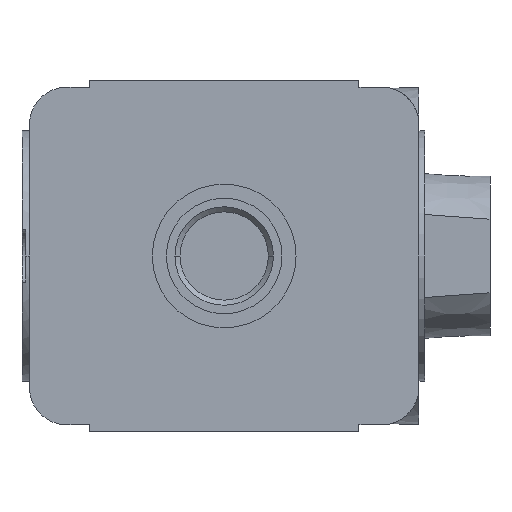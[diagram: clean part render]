
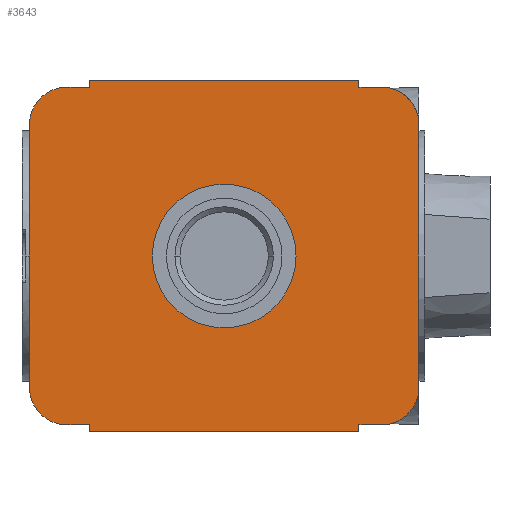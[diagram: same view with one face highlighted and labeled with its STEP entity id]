
A CAD part, left-side view. The second image highlights one B-rep face of the part: STEP entity #3643.
In plain terms, the highlighted planar face has unit normal (-1, 0, 0) as drawn and (0, 0, -1) by its records, which use the part's own axes.
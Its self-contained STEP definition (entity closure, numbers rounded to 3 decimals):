
#3170=CARTESIAN_POINT('',(0.,0.,-0.75));
#3171=DIRECTION('',(0.,0.,-1.));
#3172=DIRECTION('',(1.,0.,0.));
#3173=AXIS2_PLACEMENT_3D('',#3170,#3171,#3172);
#3175=CARTESIAN_POINT('',(0.,0.,-0.75));
#3176=DIRECTION('',(0.,0.,-1.));
#3177=DIRECTION('',(-1.,0.,0.));
#3178=AXIS2_PLACEMENT_3D('',#3175,#3176,#3177);
#3180=CARTESIAN_POINT('',(-17.56,21.,-0.75));
#3181=DIRECTION('',(0.,0.,1.));
#3182=DIRECTION('',(0.,1.,0.));
#3183=AXIS2_PLACEMENT_3D('',#3180,#3181,#3182);
#3185=DIRECTION('',(0.,-1.,0.));
#3186=VECTOR('',#3185,3.);
#3187=CARTESIAN_POINT('',(-22.56,21.,-0.75));
#3188=LINE('',#3187,#3186);
#3189=DIRECTION('',(-1.,0.,0.));
#3190=VECTOR('',#3189,0.94);
#3191=CARTESIAN_POINT('',(-22.56,18.,-0.75));
#3192=LINE('',#3191,#3190);
#3193=DIRECTION('',(0.,-1.,0.));
#3194=VECTOR('',#3193,36.);
#3195=CARTESIAN_POINT('',(-23.5,18.,-0.75));
#3196=LINE('',#3195,#3194);
#3197=DIRECTION('',(1.,0.,0.));
#3198=VECTOR('',#3197,0.94);
#3199=CARTESIAN_POINT('',(-23.5,-18.,-0.75));
#3200=LINE('',#3199,#3198);
#3201=DIRECTION('',(0.,-1.,0.));
#3202=VECTOR('',#3201,3.);
#3203=CARTESIAN_POINT('',(-22.56,-18.,-0.75));
#3204=LINE('',#3203,#3202);
#3205=CARTESIAN_POINT('',(-17.56,-21.,-0.75));
#3206=DIRECTION('',(0.,0.,1.));
#3207=DIRECTION('',(-1.,0.,0.));
#3208=AXIS2_PLACEMENT_3D('',#3205,#3206,#3207);
#3210=DIRECTION('',(1.,0.,0.));
#3211=VECTOR('',#3210,35.12);
#3212=CARTESIAN_POINT('',(-17.56,-26.,-0.75));
#3213=LINE('',#3212,#3211);
#3214=CARTESIAN_POINT('',(17.56,-21.,-0.75));
#3215=DIRECTION('',(0.,0.,1.));
#3216=DIRECTION('',(0.,-1.,0.));
#3217=AXIS2_PLACEMENT_3D('',#3214,#3215,#3216);
#3219=DIRECTION('',(0.,1.,0.));
#3220=VECTOR('',#3219,3.);
#3221=CARTESIAN_POINT('',(22.56,-21.,-0.75));
#3222=LINE('',#3221,#3220);
#3223=DIRECTION('',(1.,0.,0.));
#3224=VECTOR('',#3223,0.94);
#3225=CARTESIAN_POINT('',(22.56,-18.,-0.75));
#3226=LINE('',#3225,#3224);
#3227=DIRECTION('',(0.,1.,0.));
#3228=VECTOR('',#3227,36.);
#3229=CARTESIAN_POINT('',(23.5,-18.,-0.75));
#3230=LINE('',#3229,#3228);
#3231=DIRECTION('',(-1.,0.,0.));
#3232=VECTOR('',#3231,0.94);
#3233=CARTESIAN_POINT('',(23.5,18.,-0.75));
#3234=LINE('',#3233,#3232);
#3235=DIRECTION('',(0.,1.,0.));
#3236=VECTOR('',#3235,3.);
#3237=CARTESIAN_POINT('',(22.56,18.,-0.75));
#3238=LINE('',#3237,#3236);
#3239=CARTESIAN_POINT('',(17.56,21.,-0.75));
#3240=DIRECTION('',(0.,0.,1.));
#3241=DIRECTION('',(1.,0.,0.));
#3242=AXIS2_PLACEMENT_3D('',#3239,#3240,#3241);
#3244=DIRECTION('',(-1.,0.,0.));
#3245=VECTOR('',#3244,35.12);
#3246=CARTESIAN_POINT('',(17.56,26.,-0.75));
#3247=LINE('',#3246,#3245);
#3494=CARTESIAN_POINT('',(-17.56,26.,-0.75));
#3495=CARTESIAN_POINT('',(-22.56,21.,-0.75));
#3496=VERTEX_POINT('',#3494);
#3497=VERTEX_POINT('',#3495);
#3498=CARTESIAN_POINT('',(-22.56,18.,-0.75));
#3499=VERTEX_POINT('',#3498);
#3500=CARTESIAN_POINT('',(-23.5,18.,-0.75));
#3501=VERTEX_POINT('',#3500);
#3502=CARTESIAN_POINT('',(-23.5,-18.,-0.75));
#3503=VERTEX_POINT('',#3502);
#3504=CARTESIAN_POINT('',(-22.56,-18.,-0.75));
#3505=VERTEX_POINT('',#3504);
#3506=CARTESIAN_POINT('',(-22.56,-21.,-0.75));
#3507=VERTEX_POINT('',#3506);
#3508=CARTESIAN_POINT('',(-17.56,-26.,-0.75));
#3509=VERTEX_POINT('',#3508);
#3510=CARTESIAN_POINT('',(17.56,-26.,-0.75));
#3511=VERTEX_POINT('',#3510);
#3512=CARTESIAN_POINT('',(22.56,-21.,-0.75));
#3513=VERTEX_POINT('',#3512);
#3514=CARTESIAN_POINT('',(22.56,-18.,-0.75));
#3515=VERTEX_POINT('',#3514);
#3516=CARTESIAN_POINT('',(23.5,-18.,-0.75));
#3517=VERTEX_POINT('',#3516);
#3518=CARTESIAN_POINT('',(23.5,18.,-0.75));
#3519=VERTEX_POINT('',#3518);
#3520=CARTESIAN_POINT('',(22.56,18.,-0.75));
#3521=VERTEX_POINT('',#3520);
#3522=CARTESIAN_POINT('',(22.56,21.,-0.75));
#3523=VERTEX_POINT('',#3522);
#3524=CARTESIAN_POINT('',(17.56,26.,-0.75));
#3525=VERTEX_POINT('',#3524);
#3590=CARTESIAN_POINT('',(9.6,0.,-0.75));
#3591=CARTESIAN_POINT('',(-9.6,0.,-0.75));
#3592=VERTEX_POINT('',#3590);
#3593=VERTEX_POINT('',#3591);
#3598=CARTESIAN_POINT('',(0.,0.,-0.75));
#3599=DIRECTION('',(0.,0.,1.));
#3600=DIRECTION('',(1.,0.,0.));
#3601=AXIS2_PLACEMENT_3D('',#3598,#3599,#3600);
#3602=PLANE('',#3601);
#3604=ORIENTED_EDGE('',*,*,#3603,.T.);
#3606=ORIENTED_EDGE('',*,*,#3605,.T.);
#3608=ORIENTED_EDGE('',*,*,#3607,.T.);
#3610=ORIENTED_EDGE('',*,*,#3609,.T.);
#3612=ORIENTED_EDGE('',*,*,#3611,.T.);
#3614=ORIENTED_EDGE('',*,*,#3613,.T.);
#3616=ORIENTED_EDGE('',*,*,#3615,.T.);
#3618=ORIENTED_EDGE('',*,*,#3617,.T.);
#3620=ORIENTED_EDGE('',*,*,#3619,.T.);
#3622=ORIENTED_EDGE('',*,*,#3621,.T.);
#3624=ORIENTED_EDGE('',*,*,#3623,.T.);
#3626=ORIENTED_EDGE('',*,*,#3625,.T.);
#3628=ORIENTED_EDGE('',*,*,#3627,.T.);
#3630=ORIENTED_EDGE('',*,*,#3629,.T.);
#3632=ORIENTED_EDGE('',*,*,#3631,.T.);
#3634=ORIENTED_EDGE('',*,*,#3633,.T.);
#3635=EDGE_LOOP('',(#3604,#3606,#3608,#3610,#3612,#3614,#3616,#3618,#3620,#3622,
#3624,#3626,#3628,#3630,#3632,#3634));
#3636=FACE_OUTER_BOUND('',#3635,.F.);
#3638=ORIENTED_EDGE('',*,*,#3637,.T.);
#3640=ORIENTED_EDGE('',*,*,#3639,.T.);
#3641=EDGE_LOOP('',(#3638,#3640));
#3642=FACE_BOUND('',#3641,.F.);
#3643=ADVANCED_FACE('',(#3636,#3642),#3602,.F.);
#3174=CIRCLE('',#3173,9.6);
#3179=CIRCLE('',#3178,9.6);
#3184=CIRCLE('',#3183,5.);
#3209=CIRCLE('',#3208,5.);
#3218=CIRCLE('',#3217,5.);
#3243=CIRCLE('',#3242,5.);
#3603=EDGE_CURVE('',#3496,#3497,#3184,.T.);
#3605=EDGE_CURVE('',#3497,#3499,#3188,.T.);
#3607=EDGE_CURVE('',#3499,#3501,#3192,.T.);
#3609=EDGE_CURVE('',#3501,#3503,#3196,.T.);
#3611=EDGE_CURVE('',#3503,#3505,#3200,.T.);
#3613=EDGE_CURVE('',#3505,#3507,#3204,.T.);
#3615=EDGE_CURVE('',#3507,#3509,#3209,.T.);
#3617=EDGE_CURVE('',#3509,#3511,#3213,.T.);
#3619=EDGE_CURVE('',#3511,#3513,#3218,.T.);
#3621=EDGE_CURVE('',#3513,#3515,#3222,.T.);
#3623=EDGE_CURVE('',#3515,#3517,#3226,.T.);
#3625=EDGE_CURVE('',#3517,#3519,#3230,.T.);
#3627=EDGE_CURVE('',#3519,#3521,#3234,.T.);
#3629=EDGE_CURVE('',#3521,#3523,#3238,.T.);
#3631=EDGE_CURVE('',#3523,#3525,#3243,.T.);
#3633=EDGE_CURVE('',#3525,#3496,#3247,.T.);
#3637=EDGE_CURVE('',#3592,#3593,#3174,.T.);
#3639=EDGE_CURVE('',#3593,#3592,#3179,.T.);
